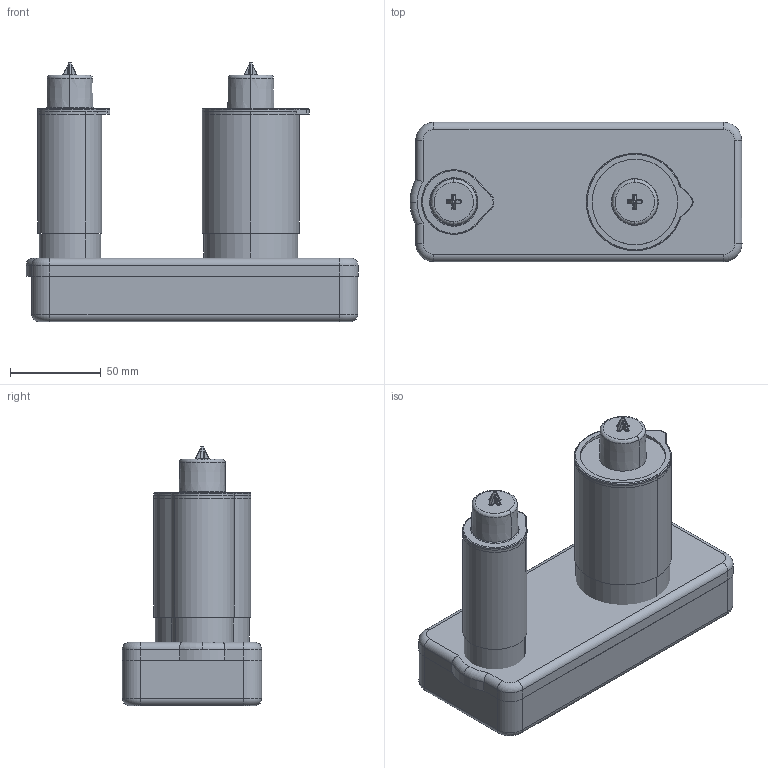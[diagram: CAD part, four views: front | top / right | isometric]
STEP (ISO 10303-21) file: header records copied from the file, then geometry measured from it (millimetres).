
FILE_DESCRIPTION (( 'STEP AP203' ), '1' );
FILE_NAME ('57860300(2025).STEP', '2025-06-11T11:39:15', ( '' ), ( '' ), 'SwSTEP 2.0', 'SolidWorks 2024', '' );
FILE_SCHEMA (( 'CONFIG_CONTROL_DESIGN' ));
Length unit declared in the file: millimetre
Products named in the file (1): 57860300(2025)
Bounding box: 183.37 x 77 x 143.17 mm (x, y, z)
Volume: 787547.2 mm3; surface area: 118855 mm2
Topology: 8 solids, 8 shells, 177 faces, 403 edges, 247 vertices
Faces by surface type: cylinder 63, plane 52, bspline 37, cone 14, torus 11
Entity records: 6454 total; most frequent: CARTESIAN_POINT 2629, ORIENTED_EDGE 806, DIRECTION 754, EDGE_CURVE 403, AXIS2_PLACEMENT_3D 304, VERTEX_POINT 247, EDGE_LOOP 182, FACE_OUTER_BOUND 177
